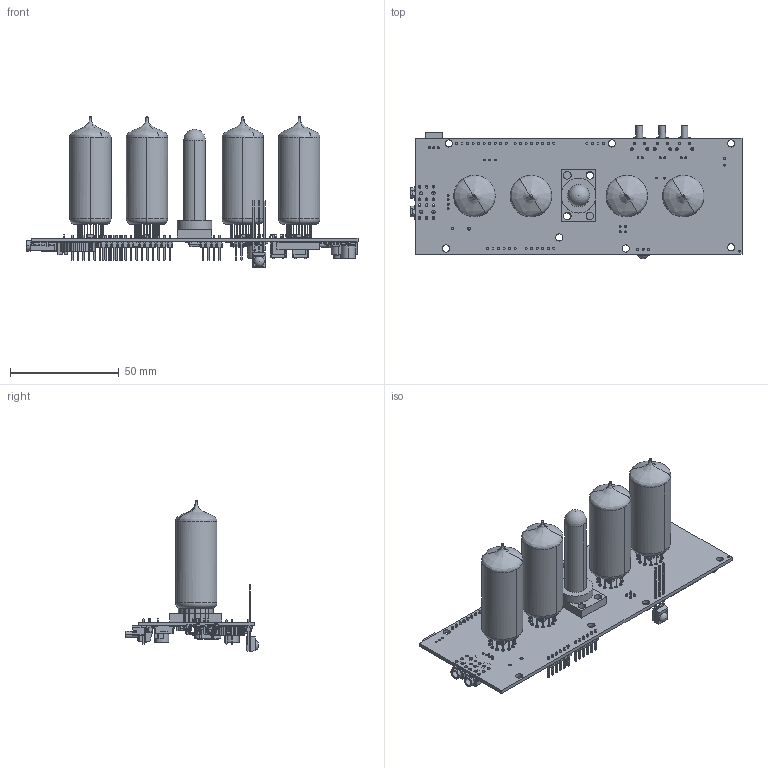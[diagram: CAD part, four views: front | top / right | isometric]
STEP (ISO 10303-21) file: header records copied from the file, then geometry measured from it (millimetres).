
FILE_DESCRIPTION(('Open CASCADE Model'),'2;1');
FILE_NAME('Open CASCADE Shape Model','2019-10-29T18:47:33',('Author'),( 'Open CASCADE'),'Open CASCADE STEP processor 6.8','Open CASCADE 6.8' ,'Unknown');
FILE_SCHEMA(('AUTOMOTIVE_DESIGN { 1 0 10303 214 1 1 1 1 }'));
Length unit declared in the file: millimetre
Products named in the file (1): PCB
Bounding box: 152.57 x 61.25 x 69.2 mm (x, y, z)
Volume: 19433.9 mm3; surface area: 46813.1 mm2
Topology: 73 solids, 4333 shells, 8438 faces, 31911 edges, 27538 vertices
Faces by surface type: plane 5190, cylinder 2042, bspline 885, sphere 258, cone 45, torus 18
Full cylindrical faces by diameter (mm): 0.8 x7, 0.9 x60, 1.1 x7, 1.3 x18, 1.4 x53, 1.5 x4, 3.3 x9
Entity records: 401454 total; most frequent: CARTESIAN_POINT 108000, DIRECTION 50414, ORIENTED_EDGE 41959, EDGE_CURVE 31558, VERTEX_POINT 27538, LINE 23274, VECTOR 23274, AXIS2_PLACEMENT_3D 13570
